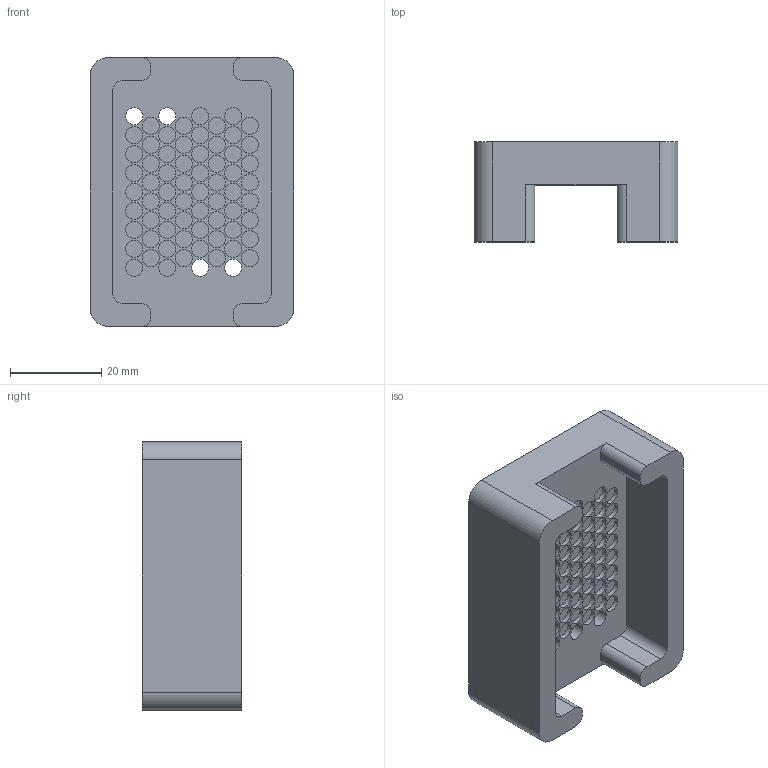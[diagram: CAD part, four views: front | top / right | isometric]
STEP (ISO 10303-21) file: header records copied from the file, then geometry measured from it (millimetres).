
FILE_DESCRIPTION (( 'STEP AP214' ), '1' );
FILE_NAME ('Example Press In Tool FM - Al2O3.STEP', '2025-01-31T21:53:51', ( '' ), ( '' ), 'SwSTEP 2.0', 'SolidWorks 2024', '' );
FILE_SCHEMA (( 'AUTOMOTIVE_DESIGN' ));
Length unit declared in the file: millimetre
Products named in the file (1): Example Press In Tool FM - Al2O3
Bounding box: 44.6 x 21.85 x 58.8 mm (x, y, z)
Volume: 32573.6 mm3; surface area: 11995.6 mm2
Topology: 1 solids, 1 shells, 234 faces, 504 edges, 336 vertices
Faces by surface type: cylinder 152, plane 82
Entity records: 9103 total; most frequent: DIRECTION 1278, CARTESIAN_POINT 1075, ORIENTED_EDGE 1008, AXIS2_PLACEMENT_3D 539, EDGE_CURVE 504, VERTEX_POINT 336, EDGE_LOOP 306, CIRCLE 304
